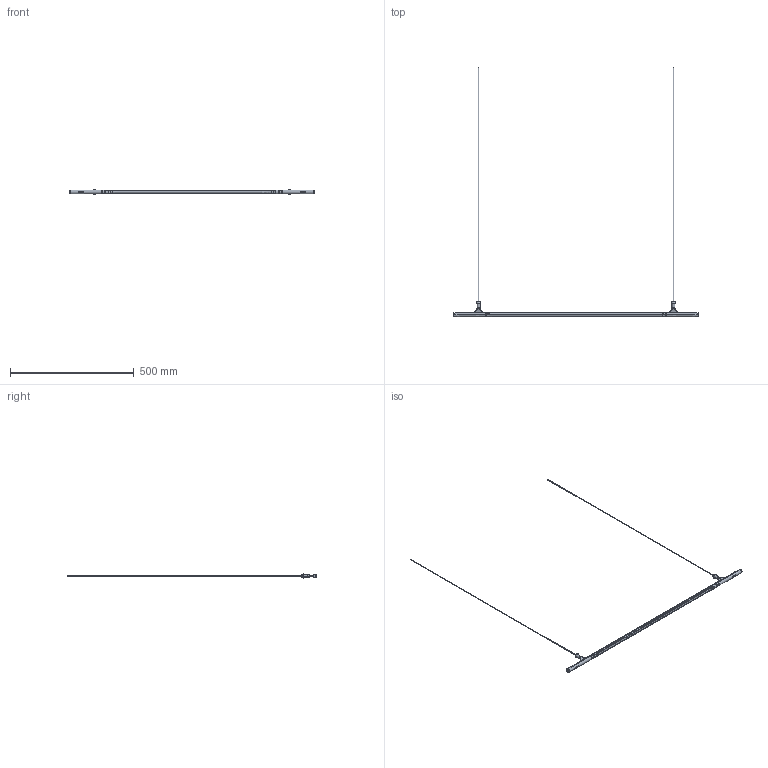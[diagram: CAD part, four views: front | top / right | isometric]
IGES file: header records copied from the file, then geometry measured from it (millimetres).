
Start section: SolidWorks IGES file using analytic representation for surfaces
Global section: file name: C:\Users\scott\Dropbox\Rakumba Industrial Design\PRODUCT\2 DEVELOPMENT\GALLERY\CAD\Gallery Lightweight CAD\Gallery - Single Pendant.IGS; native system: SolidWorks 2017; preprocessor: SolidWorks 2017; author: scott; date: 240403.175324; units: millimetre
Bounding box: 988.8 x 1010 x 17.38 mm (x, y, z)
Surface area: 101412.1 mm2 (no closed solid volume)
Topology: 0 solids, 0 shells, 304 faces, 3708 edges, 3706 vertices
Faces by surface type: bspline 187, revolution 117
